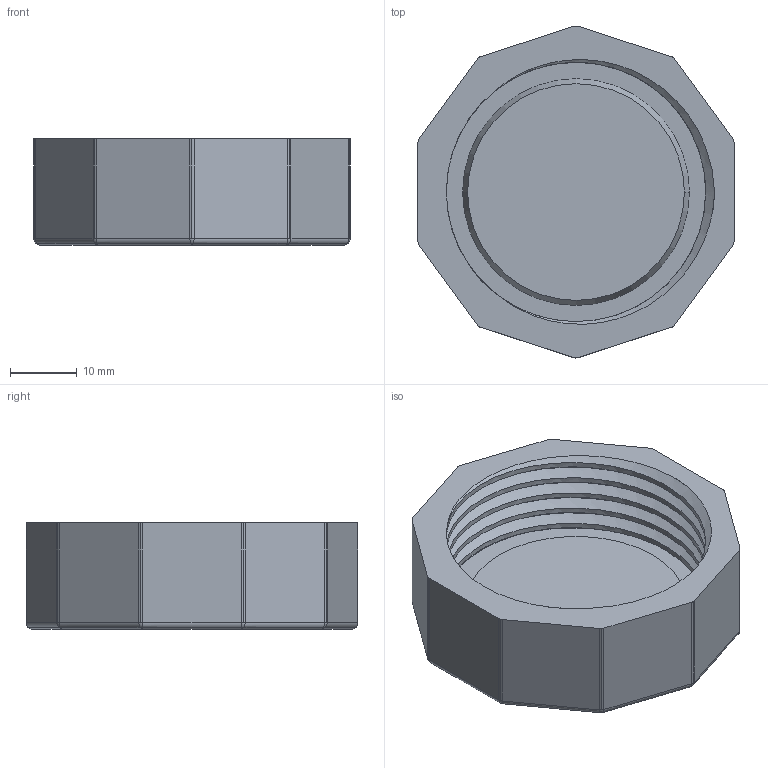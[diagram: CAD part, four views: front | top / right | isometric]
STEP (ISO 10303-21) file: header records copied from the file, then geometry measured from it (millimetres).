
FILE_DESCRIPTION(('STEP AP214'),'1');
FILE_NAME('DinitrolDeckel.stp','2026-08-04T05:54:50',(''),(''),'Spatial InterOp 3D',' ',' ');
FILE_SCHEMA(('AUTOMOTIVE_DESIGN { 1 0 10303 214 1 1 1 1 }'));
Length unit declared in the file: millimetre
Products named in the file (1): Bauteil_484854
Bounding box: 47.55 x 49.9 x 16 mm (x, y, z)
Volume: 13732.9 mm3; surface area: 8681.9 mm2
Topology: 1 solids, 1 shells, 89 faces, 215 edges, 130 vertices
Faces by surface type: cylinder 51, sphere 20, plane 14, cone 2, bspline 2
Entity records: 16445 total; most frequent: CARTESIAN_POINT 13605, DIRECTION 472, ORIENTED_EDGE 430, EDGE_CURVE 215, AXIS2_PLACEMENT_3D 195, VERTEX_POINT 130, CIRCLE 107, EDGE_LOOP 91
